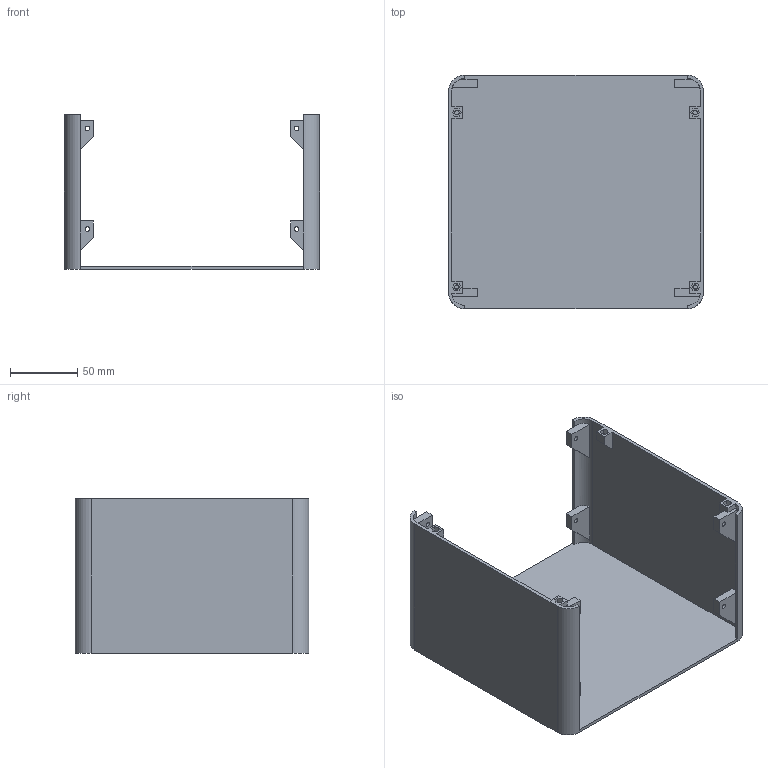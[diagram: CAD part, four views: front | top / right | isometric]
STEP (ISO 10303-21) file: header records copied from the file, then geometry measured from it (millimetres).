
FILE_DESCRIPTION(('Open CASCADE Model'),'2;1');
FILE_NAME('A01_inverted_print_hood','2026-11-05T16:12:41',('Author'),( 'Open CASCADE'),'Open CASCADE STEP processor 7.9','build123d', 'Unknown');
FILE_SCHEMA(('AUTOMOTIVE_DESIGN { 1 0 10303 214 1 1 1 1 }'));
Length unit declared in the file: millimetre
Products named in the file (2): A01_inverted_print_hood
Assembly tree (1 placements, depth 2):
  A01_inverted_print_hood
    A01_inverted_print_hood
Bounding box: 190 x 174 x 115.2 mm (x, y, z)
Volume: 198433.7 mm3; surface area: 160076.9 mm2
Topology: 1 solids, 1 shells, 126 faces, 332 edges, 220 vertices
Faces by surface type: plane 106, cylinder 20
Full cylindrical faces by diameter (mm): 3.4 x12
Entity records: 8362 total; most frequent: CARTESIAN_POINT 1578, DIRECTION 1258, LINE 850, VECTOR 850, ORIENTED_EDGE 664, PCURVE 664, DEFINITIONAL_REPRESENTATION 664, EDGE_CURVE 332
